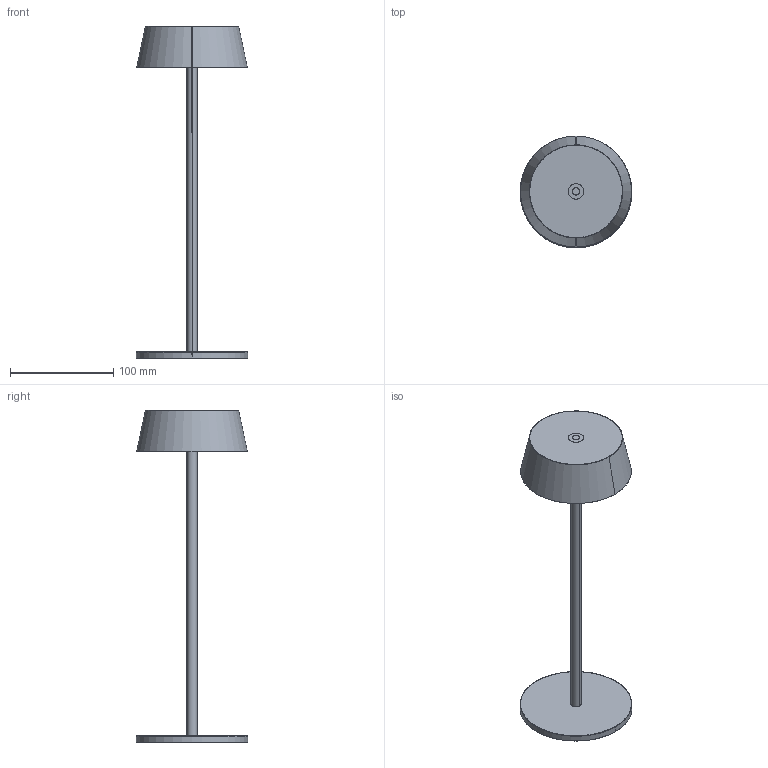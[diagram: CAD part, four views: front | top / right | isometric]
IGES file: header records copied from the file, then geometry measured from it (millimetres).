
Start section: SolidWorks IGES file using analytic representation for surfaces
Global section: file name: C:\Users\anna.bielnik\Desktop\AMY-LED-11531-11532-11533-11534-11535\AMY-LED.IGS; native system: SolidWorks 2023; preprocessor: SolidWorks 2023; author: anna.bielnik; date: 241017.134457; units: millimetre
Bounding box: 108 x 108 x 321 mm (x, y, z)
Surface area: 97797.5 mm2 (no closed solid volume)
Topology: 0 solids, 0 shells, 40 faces, 1128 edges, 1128 vertices
Faces by surface type: revolution 22, bspline 18
